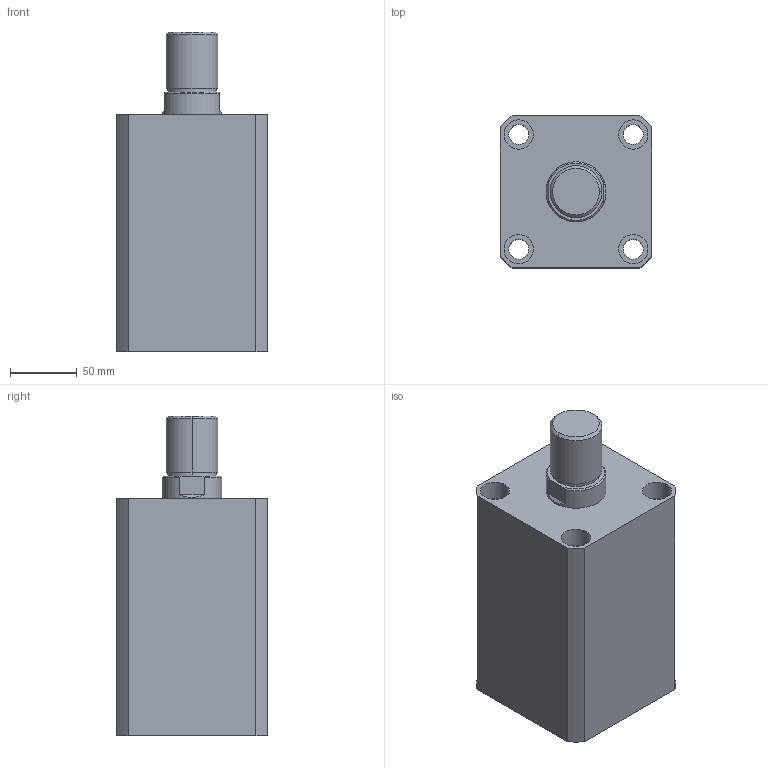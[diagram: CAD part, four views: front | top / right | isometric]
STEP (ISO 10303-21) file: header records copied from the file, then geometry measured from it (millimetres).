
FILE_DESCRIPTION (( 'STEP AP203' ), '1' );
FILE_NAME ('HTB-SDMB80-100W.STEP', '2019-10-09T06:15:30', ( '微软用户' ), ( '微软中国' ), 'SwSTEP 2.0', 'SolidWorks 2012', '' );
FILE_SCHEMA (( 'CONFIG_CONTROL_DESIGN' ));
Length unit declared in the file: millimetre
Products named in the file (3): HTB-SDMB80-100掛极; HTB-SDMB80-100W活塞杆; HTB-SDMB80-100W
Assembly tree (2 placements, depth 2):
  HTB-SDMB80-100W
    HTB-SDMB80-100掛极
    HTB-SDMB80-100W活塞杆
Bounding box: 114 x 114 x 240 mm (x, y, z)
Volume: 1870145 mm3; surface area: 227092.1 mm2
Topology: 2 solids, 2 shells, 141 faces, 337 edges, 222 vertices
Faces by surface type: plane 67, cylinder 48, bspline 16, torus 6, cone 4
Entity records: 5180 total; most frequent: CARTESIAN_POINT 1597, ORIENTED_EDGE 674, DIRECTION 669, EDGE_CURVE 337, AXIS2_PLACEMENT_3D 242, VERTEX_POINT 222, LINE 185, VECTOR 185
